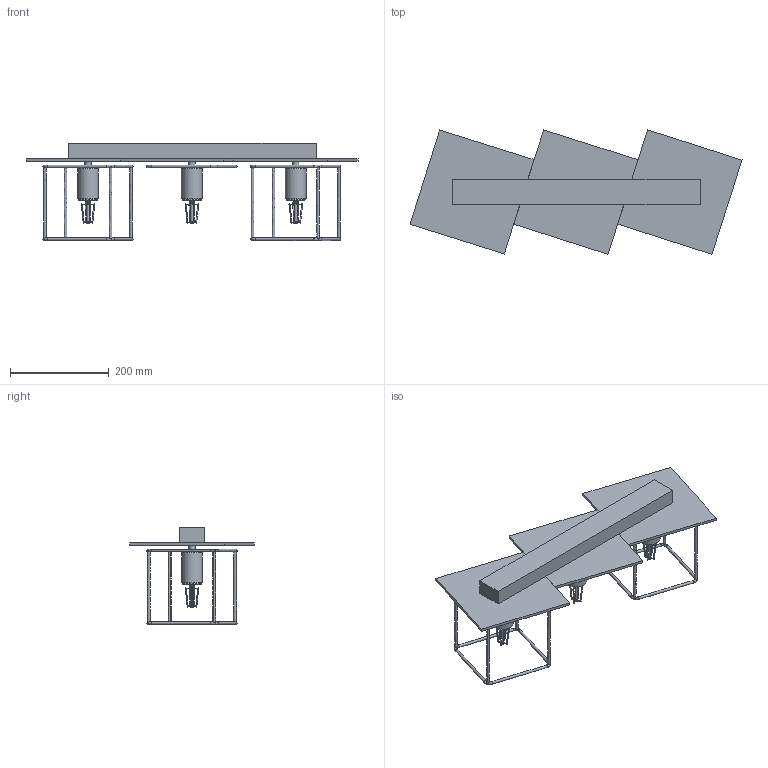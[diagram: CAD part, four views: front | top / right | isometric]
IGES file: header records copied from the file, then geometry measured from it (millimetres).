
Start section: SolidWorks IGES file using analytic representation for surfaces
Global section: file name: X:\PRODUKT\Modele 3D_WWW\_KOLEKCJE WWW\COBA-ANTIQUE\COBA-ANTIQUE-III-9043\COBA-ANTIQUE-III-9043.IGS; native system: SolidWorks 2021; preprocessor: SolidWorks 2021; author: gabriela.tworek; date: 221208.094743; units: millimetre
Bounding box: 671.06 x 251.46 x 196.1 mm (x, y, z)
Surface area: 471114.1 mm2 (no closed solid volume)
Topology: 0 solids, 3 shells, 465 faces, 1989 edges, 1736 vertices
Faces by surface type: revolution 246, bspline 219
